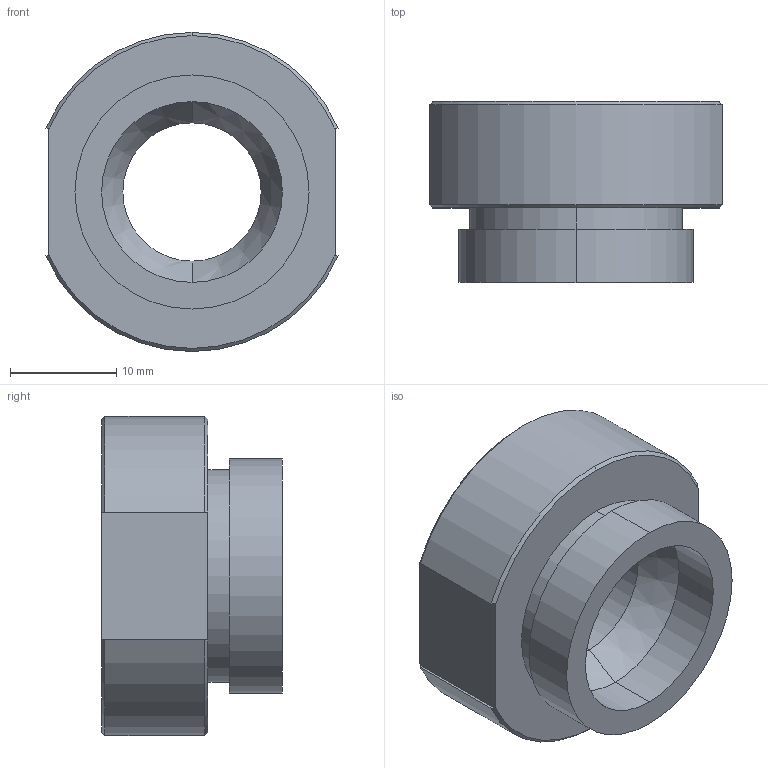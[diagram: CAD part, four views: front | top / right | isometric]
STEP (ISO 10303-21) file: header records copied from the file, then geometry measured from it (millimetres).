
FILE_DESCRIPTION (( 'STEP AP203' ), '1' );
FILE_NAME ('SW-PN-C12A.STEP', '2022-04-06T03:00:42', ( '' ), ( '' ), 'SwSTEP 2.0', 'SolidWorks 2015', '' );
FILE_SCHEMA (( 'CONFIG_CONTROL_DESIGN' ));
Length unit declared in the file: millimetre
Products named in the file (2): SW-PN-C12A
Bounding box: 27.5 x 17 x 30 mm (x, y, z)
Volume: 6487.6 mm3; surface area: 3316.6 mm2
Topology: 1 solids, 1 shells, 31 faces, 74 edges, 47 vertices
Faces by surface type: cylinder 11, cone 10, plane 10
Entity records: 1078 total; most frequent: CARTESIAN_POINT 202, DIRECTION 155, ORIENTED_EDGE 148, EDGE_CURVE 74, AXIS2_PLACEMENT_3D 64, VERTEX_POINT 47, EDGE_LOOP 35, ADVANCED_FACE 31
